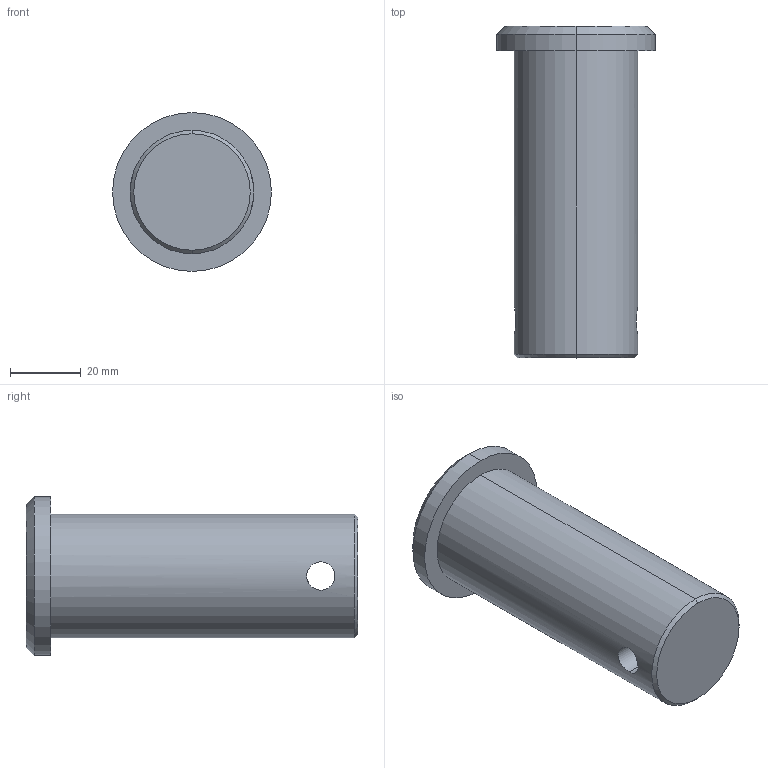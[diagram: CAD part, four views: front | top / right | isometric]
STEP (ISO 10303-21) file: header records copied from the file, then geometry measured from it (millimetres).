
FILE_DESCRIPTION (( 'STEP AP203' ), '1' );
FILE_NAME ('65660.W0135.step', '2023-10-06T10:00:30', ( '' ), ( '' ), 'SwSTEP 2.0', 'SolidWorks 2019', '' );
FILE_SCHEMA (( 'CONFIG_CONTROL_DESIGN' ));
Length unit declared in the file: millimetre
Products named in the file (1): 65660.W0135
Bounding box: 45 x 94 x 45 mm (x, y, z)
Volume: 92663.6 mm3; surface area: 14237.4 mm2
Topology: 1 solids, 1 shells, 13 faces, 26 edges, 16 vertices
Faces by surface type: cylinder 6, cone 4, plane 3
Entity records: 545 total; most frequent: CARTESIAN_POINT 188, DIRECTION 62, ORIENTED_EDGE 52, AXIS2_PLACEMENT_3D 26, EDGE_CURVE 26, VERTEX_POINT 16, EDGE_LOOP 16, FACE_OUTER_BOUND 13
